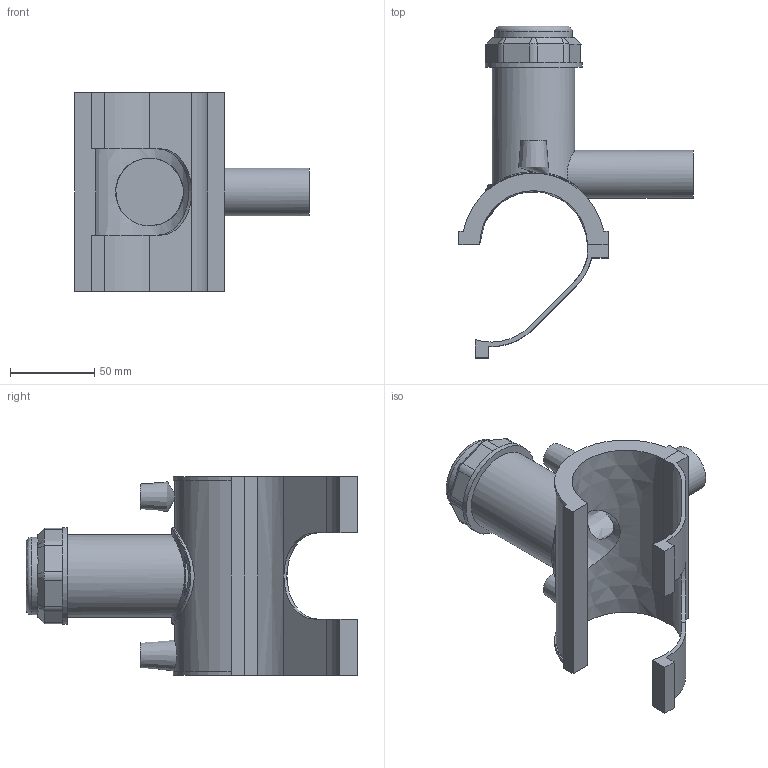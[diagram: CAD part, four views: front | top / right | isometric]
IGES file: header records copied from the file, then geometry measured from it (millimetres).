
Global section: file name: 5963BU03020010.ipt; native system: Autodesk Inventor 2019; preprocessor: unknown; author: KIM; date: 20210830.101446; units: millimetre
Bounding box: 139.45 x 197.43 x 118.11 mm (x, y, z)
Volume: 273913.1 mm3; surface area: 94835.5 mm2
Topology: 3 solids, 3 shells, 109 faces, 272 edges, 178 vertices
Faces by surface type: plane 64, cylinder 23, cone 11, revolution 10, bspline 1
Full cylindrical faces by diameter (mm): 4 x2, 28.45 x1, 46.152 x1, 49.036 x1, 57.69 x1
